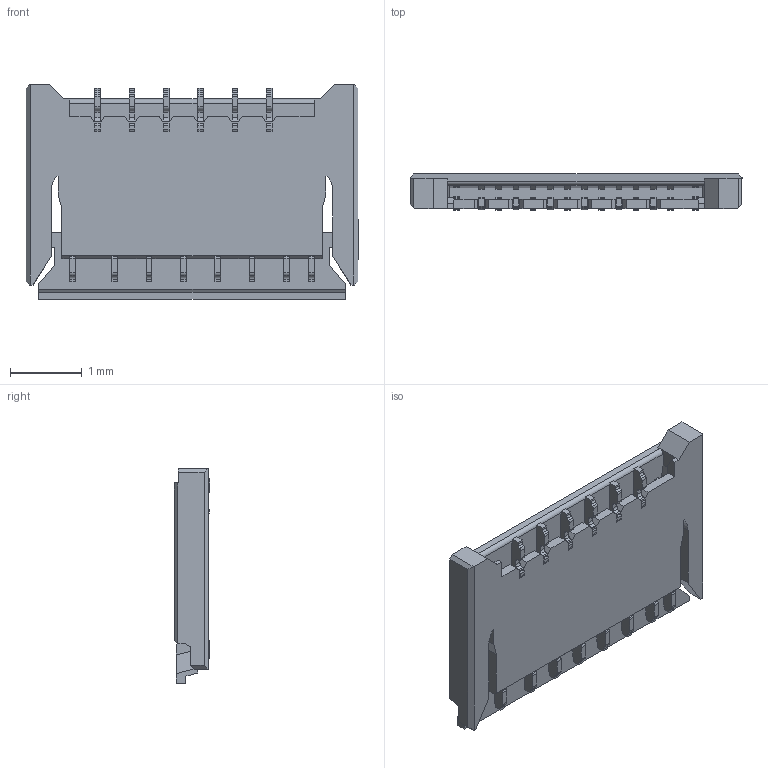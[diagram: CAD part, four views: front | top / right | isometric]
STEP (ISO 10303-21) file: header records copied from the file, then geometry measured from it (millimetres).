
FILE_DESCRIPTION (( 'STEP AP203' ), '1' );
FILE_NAME ('FF53-12A-R11A-B-3H_.STEP', '2019-03-28T02:44:30', ( '' ), ( '' ), 'SwSTEP 2.0', 'SolidWorks 2018', '' );
FILE_SCHEMA (( 'CONFIG_CONTROL_DESIGN' ));
Length unit declared in the file: inch
Products named in the file (1): FF53-12A-R11A-B-3H_
Bounding box: 4.64 x 0.5 x 3 mm (x, y, z)
Volume: 4.5 mm3; surface area: 46 mm2
Topology: 1 solids, 1 shells, 603 faces, 1709 edges, 1126 vertices
Faces by surface type: plane 460, cylinder 143
Entity records: 19458 total; most frequent: CARTESIAN_POINT 3460, ORIENTED_EDGE 3418, DIRECTION 3191, EDGE_CURVE 1709, LINE 1421, VECTOR 1421, VERTEX_POINT 1126, AXIS2_PLACEMENT_3D 885
